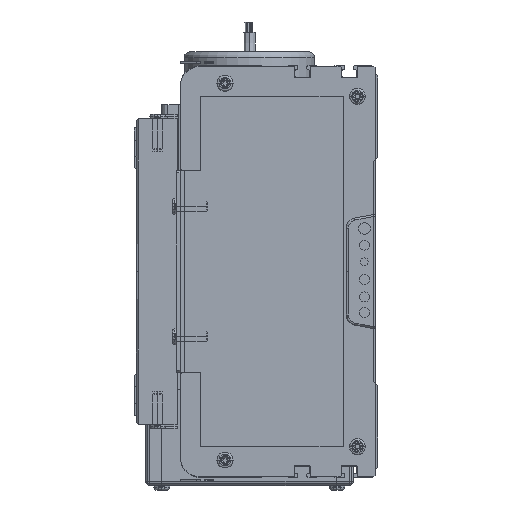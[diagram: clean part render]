
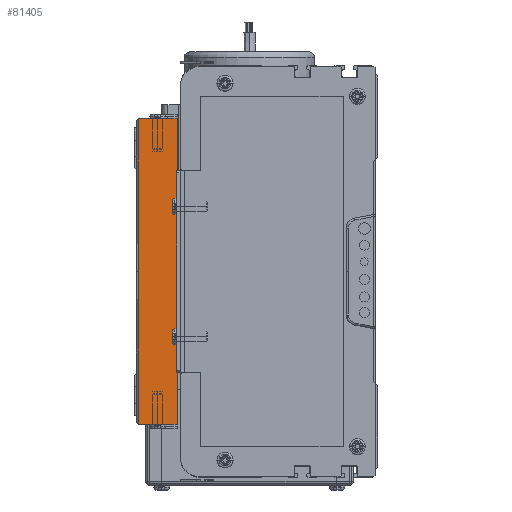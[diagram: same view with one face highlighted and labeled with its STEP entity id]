
A CAD part, left-side view. The second image highlights one B-rep face of the part: STEP entity #81405.
In plain terms, the highlighted planar face has unit normal (-1, 0, 0).
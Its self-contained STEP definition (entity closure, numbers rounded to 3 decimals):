
#31496 = DIRECTION ( 'NONE',  ( 0., 0., 1. ) ) ;
#31543 = CARTESIAN_POINT ( 'NONE',  ( 0., 0., -75. ) ) ;
#31696 = VECTOR ( 'NONE', #31496, 1000. ) ;
#31699 = CARTESIAN_POINT ( 'NONE',  ( 0., 0., 0. ) ) ;
#31701 = LINE ( 'NONE', #31699, #31696 ) ;
#31912 = CARTESIAN_POINT ( 'NONE',  ( 0., 0., 75. ) ) ;
#32110 = DIRECTION ( 'NONE',  ( 0., -1., 0. ) ) ;
#32112 = VECTOR ( 'NONE', #32110, 1000. ) ;
#32113 = CARTESIAN_POINT ( 'NONE',  ( 0., 20., 75. ) ) ;
#32126 = LINE ( 'NONE', #32113, #32112 ) ;
#32276 = CARTESIAN_POINT ( 'NONE',  ( 0., 20., 0. ) ) ;
#32278 = PLANE ( 'NONE',  #32670 ) ;
#32289 = FACE_OUTER_BOUND ( 'NONE', #81461, .T. ) ;
#32487 = DIRECTION ( 'NONE',  ( 0., 0., -1. ) ) ;
#32489 = VECTOR ( 'NONE', #32487, 1000. ) ;
#32492 = CARTESIAN_POINT ( 'NONE',  ( 0., 19., 0. ) ) ;
#32494 = LINE ( 'NONE', #32492, #32489 ) ;
#32497 = CARTESIAN_POINT ( 'NONE',  ( 0., 19., -75. ) ) ;
#32603 = DIRECTION ( 'NONE',  ( 0., 0., -1. ) ) ;
#32604 = DIRECTION ( 'NONE',  ( 1., 0., 0. ) ) ;
#32670 = AXIS2_PLACEMENT_3D ( 'NONE', #32276, #32604, #32603 ) ;
#32679 = CARTESIAN_POINT ( 'NONE',  ( 0., 19., 0. ) ) ;
#32681 = CARTESIAN_POINT ( 'NONE',  ( 0., 19., 75. ) ) ;
#32700 = DIRECTION ( 'NONE',  ( 0., -1., 0. ) ) ;
#32701 = VECTOR ( 'NONE', #32700, 1000. ) ;
#33101 = DIRECTION ( 'NONE',  ( 0., 0., -1. ) ) ;
#33103 = VECTOR ( 'NONE', #33101, 1000. ) ;
#33123 = CARTESIAN_POINT ( 'NONE',  ( 0., 19., 0. ) ) ;
#33124 = LINE ( 'NONE', #33123, #33103 ) ;
#33298 = CARTESIAN_POINT ( 'NONE',  ( 0., 20., -75. ) ) ;
#33299 = LINE ( 'NONE', #33298, #32701 ) ;
#80919 = VERTEX_POINT ( 'NONE', #31912 ) ;
#81207 = EDGE_CURVE ( 'NONE', #81209, #80919, #31701, .T. ) ;
#81209 = VERTEX_POINT ( 'NONE', #31543 ) ;
#81405 = ADVANCED_FACE ( 'NONE', ( #32289 ), #32278, .F. ) ;
#81411 = ORIENTED_EDGE ( 'NONE', *, *, #81527, .F. ) ;
#81413 = VERTEX_POINT ( 'NONE', #32679 ) ;
#81415 = ORIENTED_EDGE ( 'NONE', *, *, #81930, .T. ) ;
#81417 = EDGE_CURVE ( 'NONE', #81413, #81463, #32494, .T. ) ;
#81437 = VERTEX_POINT ( 'NONE', #32681 ) ;
#81461 = EDGE_LOOP ( 'NONE', ( #81411, #81415, #81652, #81760, #82115 ) ) ;
#81463 = VERTEX_POINT ( 'NONE', #32497 ) ;
#81527 = EDGE_CURVE ( 'NONE', #81437, #80919, #32126, .T. ) ;
#81627 = EDGE_CURVE ( 'NONE', #81463, #81209, #33299, .T. ) ;
#81652 = ORIENTED_EDGE ( 'NONE', *, *, #81417, .T. ) ;
#81760 = ORIENTED_EDGE ( 'NONE', *, *, #81627, .T. ) ;
#81930 = EDGE_CURVE ( 'NONE', #81437, #81413, #33124, .T. ) ;
#82115 = ORIENTED_EDGE ( 'NONE', *, *, #81207, .T. ) ;
